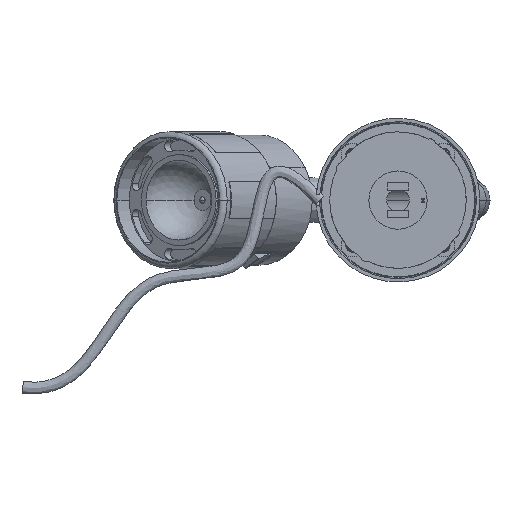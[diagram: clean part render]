
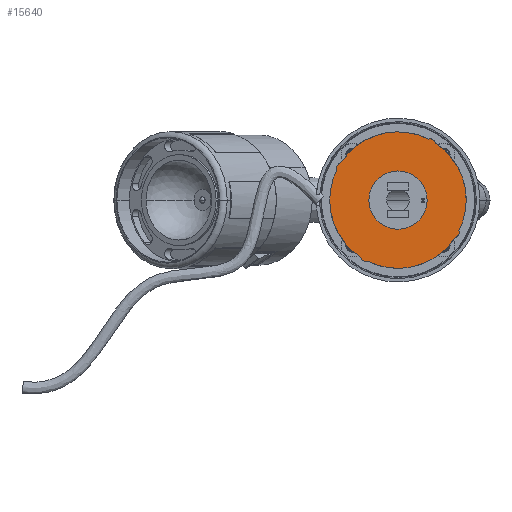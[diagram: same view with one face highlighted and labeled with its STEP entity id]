
A CAD part, front view. The second image highlights one B-rep face of the part: STEP entity #15640.
In plain terms, the highlighted planar face has unit normal (0, -1, 0).
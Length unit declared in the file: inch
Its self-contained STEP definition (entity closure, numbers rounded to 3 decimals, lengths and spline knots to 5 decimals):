
#4088=CARTESIAN_POINT('',(1.77165,0.,
-1.77197));
#4089=DIRECTION('',(0.,1.,0.));
#4090=DIRECTION('',(-0.549,0.,-0.836));
#4091=AXIS2_PLACEMENT_3D('',#4088,#4089,#4090);
#4093=CARTESIAN_POINT('',(1.77165,0.,
-1.77197));
#4094=DIRECTION('',(0.,1.,0.));
#4095=DIRECTION('',(-1.,0.,0.));
#4096=AXIS2_PLACEMENT_3D('',#4093,#4094,#4095);
#4098=CARTESIAN_POINT('',(0.5662,0.,
-1.076));
#4099=DIRECTION('',(0.,1.,0.));
#4100=DIRECTION('',(-0.961,0.,-0.276));
#4101=AXIS2_PLACEMENT_3D('',#4098,#4099,#4100);
#4103=CARTESIAN_POINT('',(1.77165,0.,
-1.77197));
#4104=DIRECTION('',(0.,1.,0.));
#4105=DIRECTION('',(-0.836,0.,0.549));
#4106=AXIS2_PLACEMENT_3D('',#4103,#4104,#4105);
#4108=CARTESIAN_POINT('',(2.46762,0.,
-0.56652));
#4109=DIRECTION('',(0.,1.,0.));
#4110=DIRECTION('',(-0.276,0.,0.961));
#4111=AXIS2_PLACEMENT_3D('',#4108,#4109,#4110);
#4113=CARTESIAN_POINT('',(1.77165,0.,
-1.77197));
#4114=DIRECTION('',(0.,1.,0.));
#4115=DIRECTION('',(0.549,0.,0.836));
#4116=AXIS2_PLACEMENT_3D('',#4113,#4114,#4115);
#4118=CARTESIAN_POINT('',(1.77165,0.,
-1.77197));
#4119=DIRECTION('',(0.,1.,0.));
#4120=DIRECTION('',(1.,0.,0.));
#4121=AXIS2_PLACEMENT_3D('',#4118,#4119,#4120);
#4123=CARTESIAN_POINT('',(2.97711,0.,
-2.46794));
#4124=DIRECTION('',(0.,1.,0.));
#4125=DIRECTION('',(0.961,0.,0.276));
#4126=AXIS2_PLACEMENT_3D('',#4123,#4124,#4125);
#4128=CARTESIAN_POINT('',(1.77165,0.,
-1.77197));
#4129=DIRECTION('',(0.,1.,0.));
#4130=DIRECTION('',(0.836,0.,-0.549));
#4131=AXIS2_PLACEMENT_3D('',#4128,#4129,#4130);
#4133=CARTESIAN_POINT('',(1.07568,0.,
-2.97743));
#4134=DIRECTION('',(0.,1.,0.));
#4135=DIRECTION('',(0.276,0.,-0.961));
#4136=AXIS2_PLACEMENT_3D('',#4133,#4134,#4135);
#4138=CARTESIAN_POINT('',(1.77165,0.,
-1.77197));
#4139=DIRECTION('',(0.,-1.,0.));
#4140=DIRECTION('',(-1.,0.,0.));
#4141=AXIS2_PLACEMENT_3D('',#4138,#4139,#4140);
#4143=CARTESIAN_POINT('',(1.77165,0.,
-1.77197));
#4144=DIRECTION('',(0.,-1.,0.));
#4145=DIRECTION('',(1.,0.,0.));
#4146=AXIS2_PLACEMENT_3D('',#4143,#4144,#4145);
#9768=CARTESIAN_POINT('',(2.40157,0.,
-1.77197));
#9769=VERTEX_POINT('',#9768);
#9770=CARTESIAN_POINT('',(1.14173,0.,
-1.77197));
#9771=VERTEX_POINT('',#9770);
#9772=CARTESIAN_POINT('',(0.29528,0.,
-1.77197));
#9773=CARTESIAN_POINT('',(0.45268,0.,
-1.10864));
#9774=VERTEX_POINT('',#9772);
#9775=VERTEX_POINT('',#9773);
#9776=CARTESIAN_POINT('',(0.96106,0.,
-3.00592));
#9777=VERTEX_POINT('',#9776);
#9778=CARTESIAN_POINT('',(0.5377,0.,
-0.96138));
#9779=VERTEX_POINT('',#9778);
#9780=CARTESIAN_POINT('',(2.43499,0.,
-0.453));
#9781=VERTEX_POINT('',#9780);
#9782=CARTESIAN_POINT('',(2.58225,0.,
-0.53802));
#9783=VERTEX_POINT('',#9782);
#9784=CARTESIAN_POINT('',(3.24803,0.,
-1.77197));
#9785=CARTESIAN_POINT('',(3.09062,0.,
-2.43531));
#9786=VERTEX_POINT('',#9784);
#9787=VERTEX_POINT('',#9785);
#9788=CARTESIAN_POINT('',(3.0056,0.,
-2.58257));
#9789=VERTEX_POINT('',#9788);
#9790=CARTESIAN_POINT('',(1.10832,0.,
-3.09094));
#9791=VERTEX_POINT('',#9790);
#15612=CARTESIAN_POINT('',(1.07568,0.,
-2.97743));
#15613=DIRECTION('',(0.,1.,0.));
#15614=DIRECTION('',(-1.,0.,0.));
#15615=AXIS2_PLACEMENT_3D('',#15612,#15613,#15614);
#15616=PLANE('',#15615);
#15617=ORIENTED_EDGE('',*,*,#15585,.T.);
#15618=ORIENTED_EDGE('',*,*,#15583,.T.);
#15620=ORIENTED_EDGE('',*,*,#15619,.T.);
#15621=ORIENTED_EDGE('',*,*,#15359,.T.);
#15623=ORIENTED_EDGE('',*,*,#15622,.T.);
#15624=ORIENTED_EDGE('',*,*,#15202,.T.);
#15625=ORIENTED_EDGE('',*,*,#15200,.T.);
#15627=ORIENTED_EDGE('',*,*,#15626,.T.);
#15629=ORIENTED_EDGE('',*,*,#15628,.T.);
#15631=ORIENTED_EDGE('',*,*,#15630,.T.);
#15632=EDGE_LOOP('',(#15617,#15618,#15620,#15621,#15623,#15624,#15625,#15627,
#15629,#15631));
#15633=FACE_OUTER_BOUND('',#15632,.F.);
#15635=ORIENTED_EDGE('',*,*,#15634,.T.);
#15637=ORIENTED_EDGE('',*,*,#15636,.T.);
#15638=EDGE_LOOP('',(#15635,#15637));
#15639=FACE_BOUND('',#15638,.F.);
#15640=ADVANCED_FACE('',(#15633,#15639),#15616,.F.);
#4092=CIRCLE('',#4091,1.47638);
#4097=CIRCLE('',#4096,1.47638);
#4102=CIRCLE('',#4101,0.11811);
#4107=CIRCLE('',#4106,1.47638);
#4112=CIRCLE('',#4111,0.11811);
#4117=CIRCLE('',#4116,1.47638);
#4122=CIRCLE('',#4121,1.47638);
#4127=CIRCLE('',#4126,0.11811);
#4132=CIRCLE('',#4131,1.47638);
#4137=CIRCLE('',#4136,0.11811);
#4142=CIRCLE('',#4141,0.62992);
#4147=CIRCLE('',#4146,0.62992);
#15200=EDGE_CURVE('',#9786,#9787,#4122,.T.);
#15202=EDGE_CURVE('',#9783,#9786,#4117,.T.);
#15359=EDGE_CURVE('',#9779,#9781,#4107,.T.);
#15583=EDGE_CURVE('',#9774,#9775,#4097,.T.);
#15585=EDGE_CURVE('',#9777,#9774,#4092,.T.);
#15619=EDGE_CURVE('',#9775,#9779,#4102,.T.);
#15622=EDGE_CURVE('',#9781,#9783,#4112,.T.);
#15626=EDGE_CURVE('',#9787,#9789,#4127,.T.);
#15628=EDGE_CURVE('',#9789,#9791,#4132,.T.);
#15630=EDGE_CURVE('',#9791,#9777,#4137,.T.);
#15634=EDGE_CURVE('',#9771,#9769,#4142,.T.);
#15636=EDGE_CURVE('',#9769,#9771,#4147,.T.);
